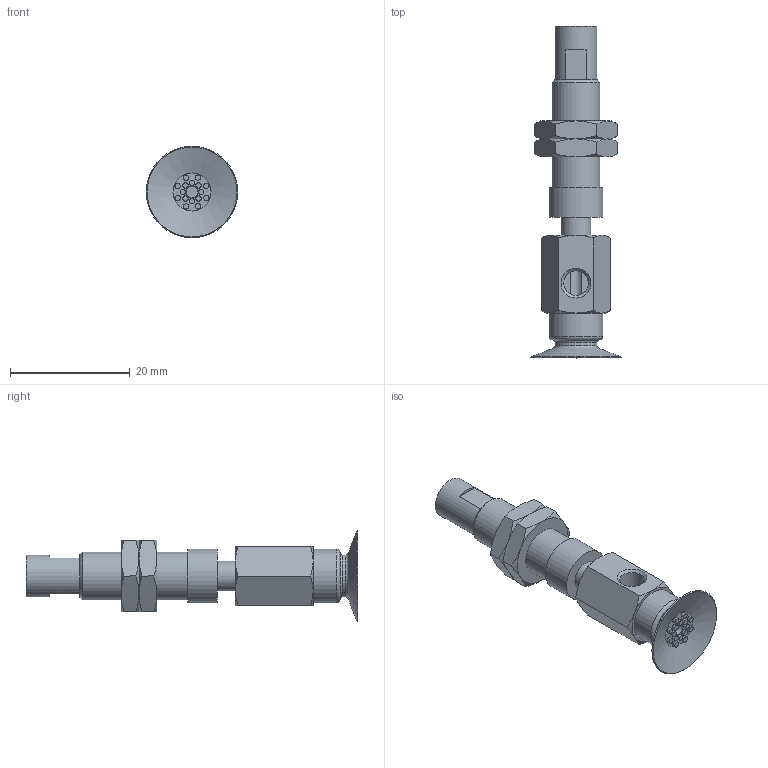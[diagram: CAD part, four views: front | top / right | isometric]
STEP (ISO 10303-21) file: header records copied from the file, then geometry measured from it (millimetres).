
FILE_DESCRIPTION(('STEP AP203'),'1');
FILE_NAME('.stp','2025-02-11T07:59:19',(' '),(' '),'Spatial InterOp 3D',' ',' ');
FILE_SCHEMA(('CONFIG_CONTROL_DESIGN'));
Length unit declared in the file: millimetre
Products named in the file (6): BNABPAYS-15A-3-※; NAPAYS-10A-3--M; NAPAYS-10A-3--F; Nut-10A-S; CONNECTOR-10A-3-PA; BPAG-15A-※_3D
Assembly tree (6 placements, depth 2):
  BNABPAYS-15A-3-※
    NAPAYS-10A-3--M
    NAPAYS-10A-3--F
    Nut-10A-S  x2
    CONNECTOR-10A-3-PA
    BPAG-15A-※_3D
Bounding box: 15.3 x 55.5 x 15.3 mm (x, y, z)
Volume: 3409.2 mm3; surface area: 4251.5 mm2
Topology: 6 solids, 6 shells, 160 faces, 317 edges, 194 vertices
Faces by surface type: plane 67, cone 50, cylinder 34, torus 9
Full cylindrical faces by diameter (mm): 0.9 x16, 2 x2, 4 x2, 4.134 x2, 5 x3, 6 x2, 7 x2, 7.188 x2, 8 x1, 9 x2
Entity records: 3728 total; most frequent: CARTESIAN_POINT 858, DIRECTION 556, ORIENTED_EDGE 416, AXIS2_PLACEMENT_3D 258, EDGE_LOOP 224, EDGE_CURVE 208, FACE_OUTER_BOUND 179, VERTEX_POINT 158
